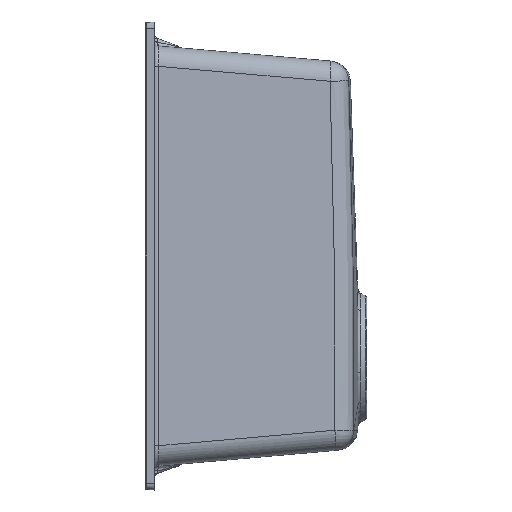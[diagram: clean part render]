
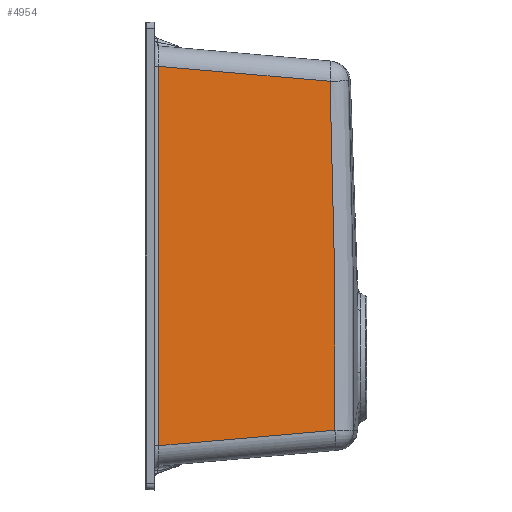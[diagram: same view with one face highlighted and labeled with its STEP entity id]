
A CAD part, left-side view. The second image highlights one B-rep face of the part: STEP entity #4954.
In plain terms, the highlighted planar face has unit normal (-0.996, -0.087, 0).
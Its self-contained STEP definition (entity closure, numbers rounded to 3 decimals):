
#100 = CARTESIAN_POINT ( 'NONE',  ( -191.176, -186.912, -71.237 ) ) ;
#417 = PLANE ( 'NONE',  #717 ) ;
#546 = CARTESIAN_POINT ( 'NONE',  ( -191.356, -184.857, 57.392 ) ) ;
#713 = CARTESIAN_POINT ( 'NONE',  ( -191.232, -186.277, -14.066 ) ) ;
#717 = AXIS2_PLACEMENT_3D ( 'NONE', #4894, #6013, #7389 ) ;
#1178 = CARTESIAN_POINT ( 'NONE',  ( -191.214, -186.477, -171.29 ) ) ;
#1516 = VECTOR ( 'NONE', #5725, 1000. ) ;
#1694 = EDGE_LOOP ( 'NONE', ( #7501, #4250, #3578, #3224 ) ) ;
#1874 = VERTEX_POINT ( 'NONE', #1178 ) ;
#1879 = VECTOR ( 'NONE', #6560, 1000. ) ;
#2170 = EDGE_CURVE ( 'NONE', #1874, #6769, #7733, .T. ) ;
#2307 = VERTEX_POINT ( 'NONE', #5841 ) ;
#2561 = EDGE_CURVE ( 'NONE', #6769, #2307, #5228, .T. ) ;
#2670 = LINE ( 'NONE', #3159, #1516 ) ;
#3159 = CARTESIAN_POINT ( 'NONE',  ( -206.342, -13.564, -186.817 ) ) ;
#3164 = CARTESIAN_POINT ( 'NONE',  ( -191.197, -186.669, -156.996 ) ) ;
#3204 = CARTESIAN_POINT ( 'NONE',  ( -191.185, -186.812, -142.703 ) ) ;
#3224 = ORIENTED_EDGE ( 'NONE', *, *, #2170, .T. ) ;
#3578 = ORIENTED_EDGE ( 'NONE', *, *, #3632, .T. ) ;
#3632 = EDGE_CURVE ( 'NONE', #6898, #1874, #6446, .T. ) ;
#3693 = CARTESIAN_POINT ( 'NONE',  ( -191.17, -186.976, -114.116 ) ) ;
#4098 = DIRECTION ( 'NONE',  ( -0.087, 0.992, 0.087 ) ) ;
#4250 = ORIENTED_EDGE ( 'NONE', *, *, #7263, .T. ) ;
#4401 = CARTESIAN_POINT ( 'NONE',  ( -191.629, -181.732, 171.705 ) ) ;
#4592 = CARTESIAN_POINT ( 'NONE',  ( -189.84, -202.181, -169.916 ) ) ;
#4781 = CARTESIAN_POINT ( 'NONE',  ( -206.342, -13.564, -186.418 ) ) ;
#4894 = CARTESIAN_POINT ( 'NONE',  ( -207.471, -0.654, -200. ) ) ;
#4954 = ADVANCED_FACE ( 'NONE', ( #6653 ), #417, .F. ) ;
#5228 = LINE ( 'NONE', #7687, #7284 ) ;
#5539 = CARTESIAN_POINT ( 'NONE',  ( -191.214, -186.477, -171.29 ) ) ;
#5615 = CARTESIAN_POINT ( 'NONE',  ( -191.298, -185.519, 28.81 ) ) ;
#5725 = DIRECTION ( 'NONE',  ( 0., 0., -1. ) ) ;
#5841 = CARTESIAN_POINT ( 'NONE',  ( -206.342, -13.564, 186.418 ) ) ;
#6013 = DIRECTION ( 'NONE',  ( 0.996, 0.087, 0. ) ) ;
#6259 = CARTESIAN_POINT ( 'NONE',  ( -191.213, -186.489, -28.359 ) ) ;
#6446 = LINE ( 'NONE', #4592, #1879 ) ;
#6560 = DIRECTION ( 'NONE',  ( 0.087, -0.992, 0.087 ) ) ;
#6653 = FACE_OUTER_BOUND ( 'NONE', #1694, .T. ) ;
#6707 = CARTESIAN_POINT ( 'NONE',  ( -191.629, -181.732, 171.705 ) ) ;
#6769 = VERTEX_POINT ( 'NONE', #6707 ) ;
#6821 = CARTESIAN_POINT ( 'NONE',  ( -191.484, -183.386, 114.551 ) ) ;
#6898 = VERTEX_POINT ( 'NONE', #4781 ) ;
#7263 = EDGE_CURVE ( 'NONE', #2307, #6898, #2670, .T. ) ;
#7284 = VECTOR ( 'NONE', #4098, 1000. ) ;
#7356 = CARTESIAN_POINT ( 'NONE',  ( -191.169, -186.996, -99.822 ) ) ;
#7389 = DIRECTION ( 'NONE',  ( -0.087, 0.996, 0. ) ) ;
#7501 = ORIENTED_EDGE ( 'NONE', *, *, #2561, .T. ) ;
#7687 = CARTESIAN_POINT ( 'NONE',  ( -204.55, -34.048, 184.626 ) ) ;
#7733 = B_SPLINE_CURVE_WITH_KNOTS ( 'NONE', 3,
 ( #5539, #3164, #3204, #3693, #7356, #100, #7958, #6259, #713, #5615, #546, #6821, #7995, #4401 ),
 .UNSPECIFIED., .F., .F.,
 ( 4, 2, 2, 2, 2, 2, 4 ),
 ( 0., 0.043, 0.086, 0.129, 0.172, 0.257, 0.343 ),
 .UNSPECIFIED. ) ;
#7958 = CARTESIAN_POINT ( 'NONE',  ( -191.185, -186.807, -56.944 ) ) ;
#7995 = CARTESIAN_POINT ( 'NONE',  ( -191.555, -182.577, 143.129 ) ) ;
